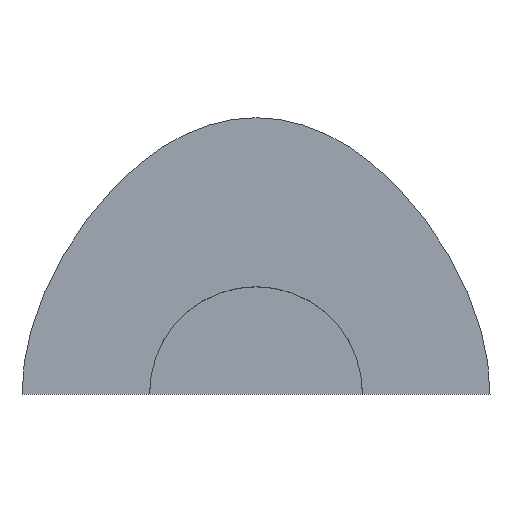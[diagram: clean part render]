
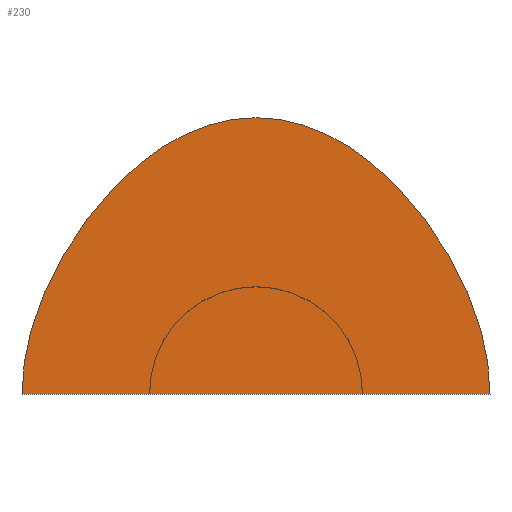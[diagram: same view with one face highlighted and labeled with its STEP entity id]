
A CAD part, top view. The second image highlights one B-rep face of the part: STEP entity #230.
In plain terms, the highlighted planar face has unit normal (0, 0, 1).
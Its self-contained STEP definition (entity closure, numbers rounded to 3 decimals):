
#193=CARTESIAN_POINT('Axis2P3D Location',(0.,52.77,0.)) ;
#198=CARTESIAN_POINT('Line Origine',(0.,0.,0.)) ;
#202=CARTESIAN_POINT('Vertex',(-110.,0.,0.)) ;
#204=CARTESIAN_POINT('Vertex',(110.,0.,0.)) ;
#208=CARTESIAN_POINT('Control Point',(0.,130.,0.)) ;
#209=CARTESIAN_POINT('Control Point',(34.059,130.,0.)) ;
#210=CARTESIAN_POINT('Control Point',(65.816,110.272,0.)) ;
#211=CARTESIAN_POINT('Control Point',(95.272,70.816,0.)) ;
#212=CARTESIAN_POINT('Control Point',(110.,34.059,0.)) ;
#213=CARTESIAN_POINT('Control Point',(110.,0.,0.)) ;
#214=CARTESIAN_POINT('Vertex',(0.,130.,0.)) ;
#218=CARTESIAN_POINT('Control Point',(0.,130.,0.)) ;
#219=CARTESIAN_POINT('Control Point',(-34.059,130.,0.)) ;
#220=CARTESIAN_POINT('Control Point',(-65.816,110.272,0.)) ;
#221=CARTESIAN_POINT('Control Point',(-95.272,70.816,0.)) ;
#222=CARTESIAN_POINT('Control Point',(-110.,34.059,0.)) ;
#223=CARTESIAN_POINT('Control Point',(-110.,0.,0.)) ;
#194=DIRECTION('Axis2P3D Direction',(0.,0.,1.)) ;
#195=DIRECTION('Axis2P3D XDirection',(1.,0.,0.)) ;
#199=DIRECTION('Vector Direction',(1.,0.,0.)) ;
#196=AXIS2_PLACEMENT_3D('Plane Axis2P3D',#193,#194,#195) ;
#226=ORIENTED_EDGE('',*,*,#206,.T.) ;
#227=ORIENTED_EDGE('',*,*,#216,.T.) ;
#228=ORIENTED_EDGE('',*,*,#224,.T.) ;
#200=VECTOR('Line Direction',#199,1.) ;
#230=ADVANCED_FACE('Fill.1',(#229),#197,.T.) ;
#207=B_SPLINE_CURVE_WITH_KNOTS('',5,(#208,#209,#210,#211,#212,#213),.UNSPECIFIED.,.F.,.U.,(6,6),(0.,170.294),.UNSPECIFIED.) ;
#217=B_SPLINE_CURVE_WITH_KNOTS('',5,(#218,#219,#220,#221,#222,#223),.UNSPECIFIED.,.F.,.U.,(6,6),(0.,170.294),.UNSPECIFIED.) ;
#206=EDGE_CURVE('',#203,#205,#201,.T.) ;
#216=EDGE_CURVE('',#205,#215,#207,.F.) ;
#224=EDGE_CURVE('',#215,#203,#217,.T.) ;
#225=EDGE_LOOP('',(#226,#227,#228)) ;
#229=FACE_OUTER_BOUND('',#225,.T.) ;
#201=LINE('Line',#198,#200) ;
#197=PLANE('',#196) ;
#203=VERTEX_POINT('',#202) ;
#205=VERTEX_POINT('',#204) ;
#215=VERTEX_POINT('',#214) ;
